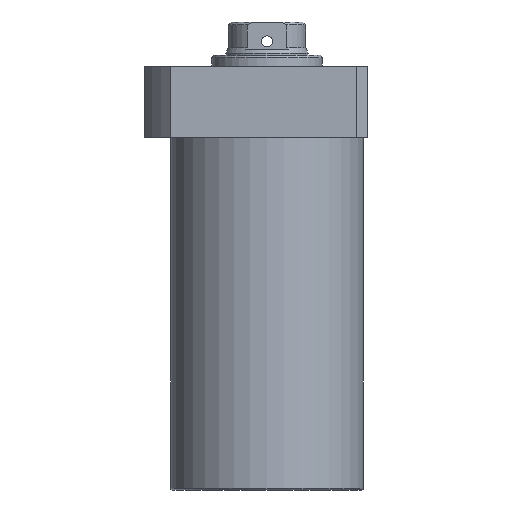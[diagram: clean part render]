
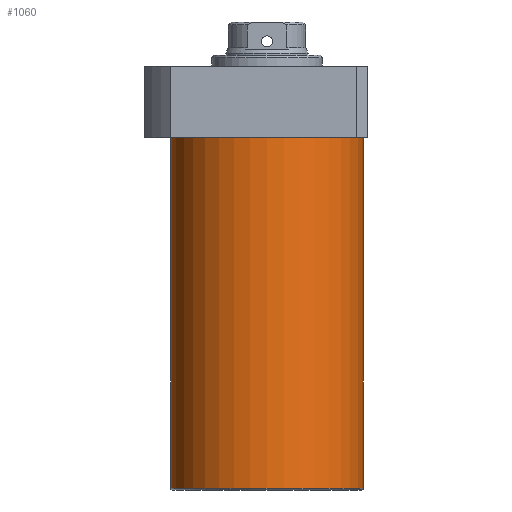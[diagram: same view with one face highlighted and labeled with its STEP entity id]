
A CAD part, front view. The second image highlights one B-rep face of the part: STEP entity #1060.
In plain terms, the highlighted cylindrical face has radius 52.5 mm (diameter 105 mm), a partial arc.
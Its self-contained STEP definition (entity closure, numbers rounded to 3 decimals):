
#117 = AXIS2_PLACEMENT_3D ( 'NONE', #1825, #979, #251 ) ;
#176 = AXIS2_PLACEMENT_3D ( 'NONE', #532, #1436, #1959 ) ;
#227 = ORIENTED_EDGE ( 'NONE', *, *, #1602, .T. ) ;
#251 = DIRECTION ( 'NONE',  ( -1., 0., 0. ) ) ;
#295 = DIRECTION ( 'NONE',  ( 0., 0., -1. ) ) ;
#314 = VECTOR ( 'NONE', #1317, 1000. ) ;
#338 = FACE_OUTER_BOUND ( 'NONE', #1322, .T. ) ;
#532 = CARTESIAN_POINT ( 'NONE',  ( 0., 0., -211.5 ) ) ;
#614 = LINE ( 'NONE', #824, #1110 ) ;
#778 = LINE ( 'NONE', #2004, #314 ) ;
#809 = EDGE_CURVE ( 'NONE', #910, #1245, #2148, .T. ) ;
#824 = CARTESIAN_POINT ( 'NONE',  ( 52.5, 0., -211.5 ) ) ;
#872 = EDGE_CURVE ( 'NONE', #1947, #910, #614, .T. ) ;
#910 = VERTEX_POINT ( 'NONE', #1015 ) ;
#948 = CIRCLE ( 'NONE', #117, 52.5 ) ;
#979 = DIRECTION ( 'NONE',  ( 0., 0., 1. ) ) ;
#993 = CARTESIAN_POINT ( 'NONE',  ( -52.5, 0., -19.5 ) ) ;
#1012 = DIRECTION ( 'NONE',  ( 1., 0., 0. ) ) ;
#1015 = CARTESIAN_POINT ( 'NONE',  ( 52.5, 0., -19.5 ) ) ;
#1060 = ADVANCED_FACE ( 'NONE', ( #338 ), #1531, .T. ) ;
#1077 = ORIENTED_EDGE ( 'NONE', *, *, #872, .T. ) ;
#1110 = VECTOR ( 'NONE', #1519, 1000. ) ;
#1135 = VERTEX_POINT ( 'NONE', #1802 ) ;
#1188 = CARTESIAN_POINT ( 'NONE',  ( 52.5, 0., -210.5 ) ) ;
#1191 = EDGE_CURVE ( 'NONE', #1135, #1245, #778, .T. ) ;
#1245 = VERTEX_POINT ( 'NONE', #993 ) ;
#1317 = DIRECTION ( 'NONE',  ( 0., 0., 1. ) ) ;
#1322 = EDGE_LOOP ( 'NONE', ( #2129, #227, #1077, #1629 ) ) ;
#1353 = CARTESIAN_POINT ( 'NONE',  ( 0., 0., -19.5 ) ) ;
#1436 = DIRECTION ( 'NONE',  ( 0., 0., 1. ) ) ;
#1519 = DIRECTION ( 'NONE',  ( 0., 0., 1. ) ) ;
#1531 = CYLINDRICAL_SURFACE ( 'NONE', #176, 52.5 ) ;
#1602 = EDGE_CURVE ( 'NONE', #1135, #1947, #948, .T. ) ;
#1629 = ORIENTED_EDGE ( 'NONE', *, *, #809, .T. ) ;
#1668 = AXIS2_PLACEMENT_3D ( 'NONE', #1353, #295, #1012 ) ;
#1802 = CARTESIAN_POINT ( 'NONE',  ( -52.5, 0., -210.5 ) ) ;
#1825 = CARTESIAN_POINT ( 'NONE',  ( 0., 0., -210.5 ) ) ;
#1947 = VERTEX_POINT ( 'NONE', #1188 ) ;
#1959 = DIRECTION ( 'NONE',  ( 1., 0., 0. ) ) ;
#2004 = CARTESIAN_POINT ( 'NONE',  ( -52.5, 0., -211.5 ) ) ;
#2129 = ORIENTED_EDGE ( 'NONE', *, *, #1191, .F. ) ;
#2148 = CIRCLE ( 'NONE', #1668, 52.5 ) ;
